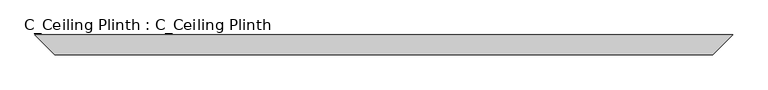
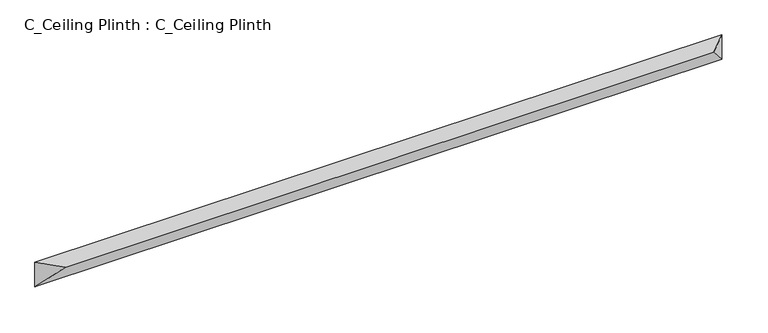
"""IFC4 building model written with IfcOpenShell, lengths in millimetres: proxy geometry, C_Ceiling Plinth : C_Ceiling Plinth."""

from ifc_helpers import new_model, si_unit, origin, place, context, project, spatial, faceted_brep, source, transform, mapped, element, save


def c_ceiling_plinth_c_ceiling_plinth_0aeba844(model_context):
    return source(origin(), model_context, "Body", "Brep", [
        faceted_brep([(2692.4, 0.0, 0.0), (2692.4, 0.0, -101.6), (0.0, 0.0, -101.6), (0.0, 0.0, 0.0), (2616.2, -76.2, 0.0), (76.2, -76.2, 0.0)], [[[0, 1, 2, 3]], [[4, 0, 3, 5]], [[1, 4, 5, 2]], [[1, 0, 4]], [[3, 2, 5]]]),
    ])


if __name__ == "__main__":
    model = new_model("IFC4")
    model_context = context("Model", 3, world=origin())
    ifc_project = project(units=[si_unit("LENGTHUNIT", "METRE", prefix="MILLI")], contexts=[model_context])
    site = spatial("IfcSite", under=ifc_project)
    building = spatial("IfcBuilding", under=site)
    placement = place(None, origin())
    c_ceiling_plinth_c_ceiling_plinth_shape = c_ceiling_plinth_c_ceiling_plinth_0aeba844(model_context)
    element("IfcBuildingElementProxy", 1, Name="C_Ceiling Plinth : C_Ceiling Plinth", ObjectType="C_Ceiling Plinth : C_Ceiling Plinth", at=placement, inside=building, context=model_context, shape_type="MappedRepresentation", body=[
        mapped(c_ceiling_plinth_c_ceiling_plinth_shape, transform((0.0, 0.0, 0.0), x_axis=(1.0, 0.0, 0.0), y_axis=(0.0, 1.0, 0.0), z_axis=(0.0, 0.0, 1.0))),
    ])
    save(model, "model.ifc")
